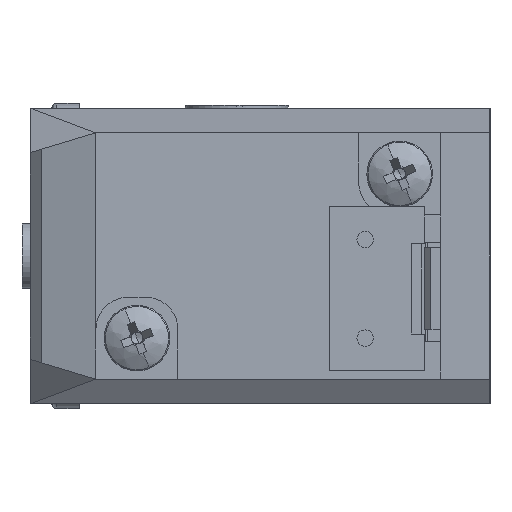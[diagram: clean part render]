
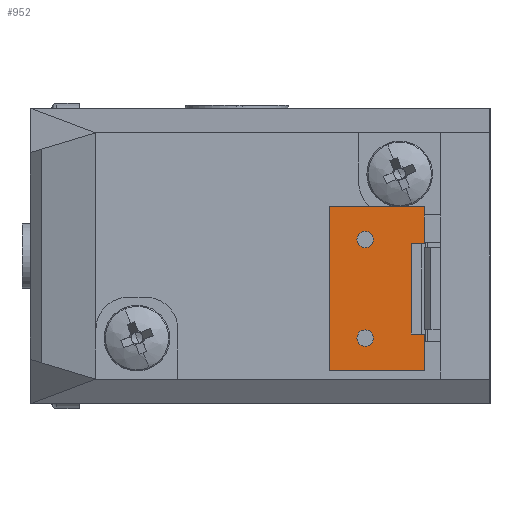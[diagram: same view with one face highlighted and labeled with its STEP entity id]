
A CAD part, left-side view. The second image highlights one B-rep face of the part: STEP entity #952.
In plain terms, the highlighted planar face has unit normal (-1, 0, 0) as drawn and (0, 0, 1) by its records, which use the part's own axes.
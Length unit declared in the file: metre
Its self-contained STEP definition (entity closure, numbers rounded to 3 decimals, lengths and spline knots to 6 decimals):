
#71 = VERTEX_POINT ( 'NONE', #5782 ) ;
#138 = VERTEX_POINT ( 'NONE', #8825 ) ;
#183 = EDGE_CURVE ( 'NONE', #6695, #521, #8754, .T. ) ;
#237 = CIRCLE ( 'NONE', #9520, 0.0005 ) ;
#256 = CARTESIAN_POINT ( 'NONE',  ( 0.003, 0.008075, 0.006 ) ) ;
#521 = VERTEX_POINT ( 'NONE', #6310 ) ;
#902 = LINE ( 'NONE', #8502, #5218 ) ;
#952 = ADVANCED_FACE ( 'NONE', ( #9138, #9957, #4405 ), #5296, .F. ) ;
#996 = AXIS2_PLACEMENT_3D ( 'NONE', #6068, #5982, #6034 ) ;
#1035 = CIRCLE ( 'NONE', #3379, 0.0005 ) ;
#1146 = CARTESIAN_POINT ( 'NONE',  ( 0.003, 0.008075, 0.006 ) ) ;
#1179 = VERTEX_POINT ( 'NONE', #3544 ) ;
#1186 = LINE ( 'NONE', #1687, #3946 ) ;
#1204 = DIRECTION ( 'NONE',  ( 0., -1., 0. ) ) ;
#1263 = VECTOR ( 'NONE', #4870, 1. ) ;
#1659 = DIRECTION ( 'NONE',  ( 1., 0., 0. ) ) ;
#1687 = CARTESIAN_POINT ( 'NONE',  ( 0., 0.010275, 0.006 ) ) ;
#1696 = DIRECTION ( 'NONE',  ( 0., 0., 1. ) ) ;
#1810 = DIRECTION ( 'NONE',  ( 0., -1., 0. ) ) ;
#1917 = LINE ( 'NONE', #4343, #4365 ) ;
#2012 = VECTOR ( 'NONE', #3751, 1. ) ;
#2274 = ORIENTED_EDGE ( 'NONE', *, *, #183, .T. ) ;
#2708 = ORIENTED_EDGE ( 'NONE', *, *, #6257, .F. ) ;
#2807 = ORIENTED_EDGE ( 'NONE', *, *, #4534, .F. ) ;
#2967 = VECTOR ( 'NONE', #6407, 1. ) ;
#2999 = EDGE_CURVE ( 'NONE', #3543, #9434, #1186, .T. ) ;
#3238 = EDGE_CURVE ( 'NONE', #1179, #3861, #1917, .T. ) ;
#3276 = ORIENTED_EDGE ( 'NONE', *, *, #8278, .F. ) ;
#3333 = AXIS2_PLACEMENT_3D ( 'NONE', #9714, #3495, #8851 ) ;
#3379 = AXIS2_PLACEMENT_3D ( 'NONE', #1146, #1696, #1810 ) ;
#3444 = VERTEX_POINT ( 'NONE', #6864 ) ;
#3495 = DIRECTION ( 'NONE',  ( 0., 0., 1. ) ) ;
#3543 = VERTEX_POINT ( 'NONE', #7944 ) ;
#3544 = CARTESIAN_POINT ( 'NONE',  ( -0.00275, 0.004475, 0.006 ) ) ;
#3575 = ORIENTED_EDGE ( 'NONE', *, *, #5969, .T. ) ;
#3741 = LINE ( 'NONE', #4745, #1263 ) ;
#3751 = DIRECTION ( 'NONE',  ( 0., -1., 0. ) ) ;
#3851 = VERTEX_POINT ( 'NONE', #10964 ) ;
#3861 = VERTEX_POINT ( 'NONE', #10938 ) ;
#3900 = CIRCLE ( 'NONE', #4594, 0.0005 ) ;
#3946 = VECTOR ( 'NONE', #1659, 1. ) ;
#4019 = CARTESIAN_POINT ( 'NONE',  ( -0.003, 0.008075, 0.006 ) ) ;
#4324 = DIRECTION ( 'NONE',  ( -1., 0., 0. ) ) ;
#4343 = CARTESIAN_POINT ( 'NONE',  ( 0., 0.004475, 0.006 ) ) ;
#4365 = VECTOR ( 'NONE', #4324, 1. ) ;
#4402 = ORIENTED_EDGE ( 'NONE', *, *, #7215, .F. ) ;
#4405 = FACE_OUTER_BOUND ( 'NONE', #9269, .T. ) ;
#4450 = LINE ( 'NONE', #8224, #2012 ) ;
#4534 = EDGE_CURVE ( 'NONE', #3851, #138, #8950, .T. ) ;
#4594 = AXIS2_PLACEMENT_3D ( 'NONE', #256, #6660, #1204 ) ;
#4668 = EDGE_LOOP ( 'NONE', ( #3276, #11386 ) ) ;
#4745 = CARTESIAN_POINT ( 'NONE',  ( -0.00275, 0.004875, 0.006 ) ) ;
#4870 = DIRECTION ( 'NONE',  ( 0., 1., 0. ) ) ;
#4922 = DIRECTION ( 'NONE',  ( 0., -1., 0. ) ) ;
#5218 = VECTOR ( 'NONE', #9732, 1. ) ;
#5296 = PLANE ( 'NONE',  #996 ) ;
#5695 = ORIENTED_EDGE ( 'NONE', *, *, #2999, .F. ) ;
#5719 = ORIENTED_EDGE ( 'NONE', *, *, #11177, .F. ) ;
#5782 = CARTESIAN_POINT ( 'NONE',  ( 0.005, 0.004475, 0.006 ) ) ;
#5807 = CARTESIAN_POINT ( 'NONE',  ( -0.005, 0.007375, 0.006 ) ) ;
#5969 = EDGE_CURVE ( 'NONE', #1179, #3444, #3741, .T. ) ;
#5982 = DIRECTION ( 'NONE',  ( 0., 0., -1. ) ) ;
#5993 = LINE ( 'NONE', #8097, #8091 ) ;
#6034 = DIRECTION ( 'NONE',  ( -1., 0., 0. ) ) ;
#6068 = CARTESIAN_POINT ( 'NONE',  ( 0.005, 0.004475, 0.006 ) ) ;
#6257 = EDGE_CURVE ( 'NONE', #6695, #3444, #5993, .T. ) ;
#6310 = CARTESIAN_POINT ( 'NONE',  ( 0.00275, 0.004475, 0.006 ) ) ;
#6388 = VECTOR ( 'NONE', #9203, 1. ) ;
#6407 = DIRECTION ( 'NONE',  ( 0., 1., 0. ) ) ;
#6660 = DIRECTION ( 'NONE',  ( 0., 0., 1. ) ) ;
#6695 = VERTEX_POINT ( 'NONE', #7586 ) ;
#6864 = CARTESIAN_POINT ( 'NONE',  ( -0.00275, 0.005275, 0.006 ) ) ;
#6967 = CARTESIAN_POINT ( 'NONE',  ( 0.003, 0.008575, 0.006 ) ) ;
#7209 = CARTESIAN_POINT ( 'NONE',  ( 0.005, 0.010275, 0.006 ) ) ;
#7215 = EDGE_CURVE ( 'NONE', #3861, #3543, #9802, .T. ) ;
#7446 = EDGE_CURVE ( 'NONE', #71, #521, #902, .T. ) ;
#7586 = CARTESIAN_POINT ( 'NONE',  ( 0.00275, 0.005275, 0.006 ) ) ;
#7645 = ORIENTED_EDGE ( 'NONE', *, *, #7446, .F. ) ;
#7875 = CARTESIAN_POINT ( 'NONE',  ( 0.003, 0.007575, 0.006 ) ) ;
#7903 = ORIENTED_EDGE ( 'NONE', *, *, #10967, .F. ) ;
#7944 = CARTESIAN_POINT ( 'NONE',  ( -0.005, 0.010275, 0.006 ) ) ;
#8069 = DIRECTION ( 'NONE',  ( -1., 0., 0. ) ) ;
#8091 = VECTOR ( 'NONE', #8069, 1. ) ;
#8097 = CARTESIAN_POINT ( 'NONE',  ( 0., 0.005275, 0.006 ) ) ;
#8224 = CARTESIAN_POINT ( 'NONE',  ( 0.005, 0.007375, 0.006 ) ) ;
#8278 = EDGE_CURVE ( 'NONE', #10694, #10690, #1035, .T. ) ;
#8502 = CARTESIAN_POINT ( 'NONE',  ( 0., 0.004475, 0.006 ) ) ;
#8754 = LINE ( 'NONE', #9090, #6388 ) ;
#8825 = CARTESIAN_POINT ( 'NONE',  ( -0.003, 0.007575, 0.006 ) ) ;
#8851 = DIRECTION ( 'NONE',  ( 0., -1., 0. ) ) ;
#8950 = CIRCLE ( 'NONE', #3333, 0.0005 ) ;
#9090 = CARTESIAN_POINT ( 'NONE',  ( 0.00275, 0.004875, 0.006 ) ) ;
#9138 = FACE_BOUND ( 'NONE', #4668, .T. ) ;
#9203 = DIRECTION ( 'NONE',  ( 0., -1., 0. ) ) ;
#9269 = EDGE_LOOP ( 'NONE', ( #3575, #2708, #2274, #7645, #7903, #5695, #4402, #11384 ) ) ;
#9434 = VERTEX_POINT ( 'NONE', #7209 ) ;
#9520 = AXIS2_PLACEMENT_3D ( 'NONE', #4019, #10231, #4922 ) ;
#9714 = CARTESIAN_POINT ( 'NONE',  ( -0.003, 0.008075, 0.006 ) ) ;
#9732 = DIRECTION ( 'NONE',  ( -1., 0., 0. ) ) ;
#9802 = LINE ( 'NONE', #5807, #2967 ) ;
#9957 = FACE_BOUND ( 'NONE', #11031, .T. ) ;
#10231 = DIRECTION ( 'NONE',  ( 0., 0., 1. ) ) ;
#10475 = EDGE_CURVE ( 'NONE', #10690, #10694, #3900, .T. ) ;
#10690 = VERTEX_POINT ( 'NONE', #6967 ) ;
#10694 = VERTEX_POINT ( 'NONE', #7875 ) ;
#10938 = CARTESIAN_POINT ( 'NONE',  ( -0.005, 0.004475, 0.006 ) ) ;
#10964 = CARTESIAN_POINT ( 'NONE',  ( -0.003, 0.008575, 0.006 ) ) ;
#10967 = EDGE_CURVE ( 'NONE', #9434, #71, #4450, .T. ) ;
#11031 = EDGE_LOOP ( 'NONE', ( #5719, #2807 ) ) ;
#11177 = EDGE_CURVE ( 'NONE', #138, #3851, #237, .T. ) ;
#11384 = ORIENTED_EDGE ( 'NONE', *, *, #3238, .F. ) ;
#11386 = ORIENTED_EDGE ( 'NONE', *, *, #10475, .F. ) ;
